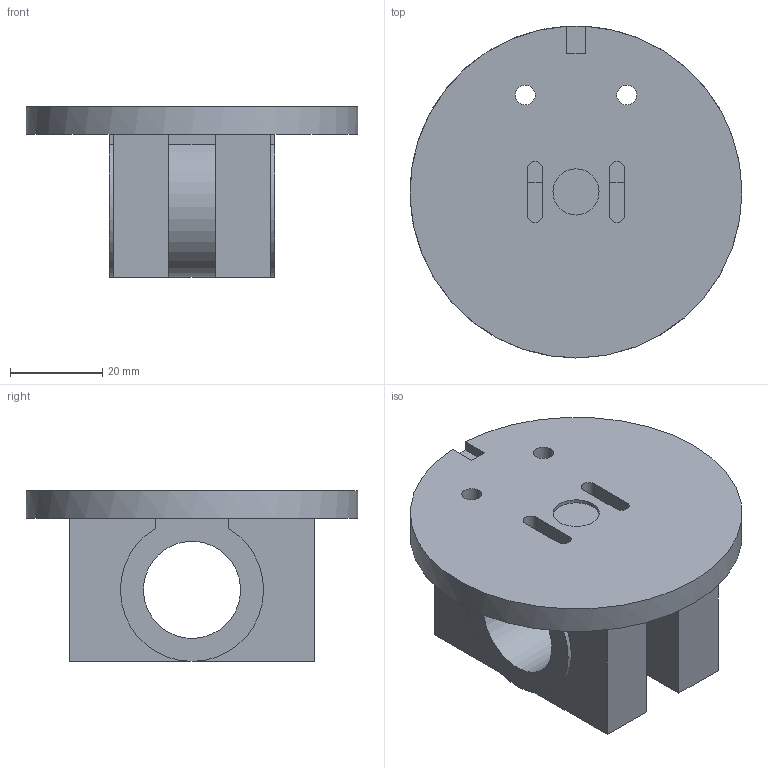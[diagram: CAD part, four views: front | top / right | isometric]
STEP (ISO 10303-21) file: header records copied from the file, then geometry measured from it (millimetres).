
FILE_DESCRIPTION(('Open CASCADE Model'),'2;1');
FILE_NAME('Open CASCADE Shape Model','2026-10-16T17:03:11',('Author'),( 'Open CASCADE'),'Open CASCADE STEP processor 7.9','Open CASCADE 7.9' ,'Unknown');
FILE_SCHEMA(('AUTOMOTIVE_DESIGN { 1 0 10303 214 1 1 1 1 }'));
Length unit declared in the file: millimetre
Products named in the file (1): Open CASCADE STEP translator 7.9 3
Bounding box: 72 x 72 x 37.05 mm (x, y, z)
Volume: 57370.6 mm3; surface area: 21303.1 mm2
Topology: 1 solids, 1 shells, 107 faces, 269 edges, 178 vertices
Faces by surface type: plane 89, cylinder 18
Full cylindrical faces by diameter (mm): 4.3 x6, 8 x2, 10 x1, 21.05 x1, 72 x1
Entity records: 6643 total; most frequent: CARTESIAN_POINT 1340, DIRECTION 928, LINE 608, VECTOR 608, ORIENTED_EDGE 538, PCURVE 538, DEFINITIONAL_REPRESENTATION 538, EDGE_CURVE 269
